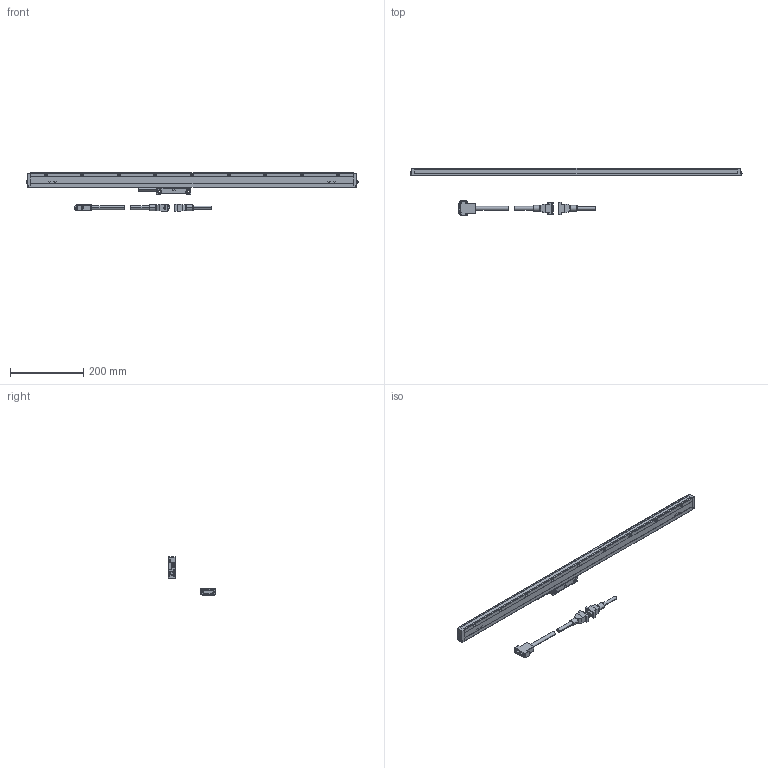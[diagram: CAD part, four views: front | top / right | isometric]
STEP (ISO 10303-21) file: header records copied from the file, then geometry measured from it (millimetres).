
FILE_DESCRIPTION(('Creo Elements/Direct Modeling STEP Export'),'2;1');
FILE_NAME('AT211-750A.stp','2018-03-15T10:08:18',(''),(''),'Creo Elements/Direct Modeling STEP processor for AP214 (Solid Model)','Creo Elements/Direct Modeling 18.1B 29-Sep-2012 (C) Parametric Technology GmbH','');
FILE_SCHEMA(('AUTOMOTIVE_DESIGN { 1 0 10303 214 1 1 1 1 }'));
Length unit declared in the file: millimetre
Products named in the file (7): AT211_Scale_750; Detector_Head; Head_Cable; SignalCable; D-sub15; Cable; AT211-750A
Assembly tree (6 placements, depth 3):
  AT211-750A
    Cable
      D-sub15
      SignalCable
      Head_Cable
    Detector_Head
    AT211_Scale_750
Bounding box: 907.12 x 130.6 x 105 mm (x, y, z)
Volume: 787013.8 mm3; surface area: 155567.9 mm2
Topology: 5 solids, 5 shells, 1075 faces, 2609 edges, 1547 vertices
Faces by surface type: plane 517, cylinder 354, sphere 74, cone 48, torus 38, extrusion 32, revolution 8, bspline 4
Entity records: 34974 total; most frequent: CARTESIAN_POINT 9032, ORIENTED_EDGE 5070, DIRECTION 4790, EDGE_CURVE 2535, AXIS2_PLACEMENT_3D 1687, VERTEX_POINT 1547, VECTOR 1404, LINE 1392
